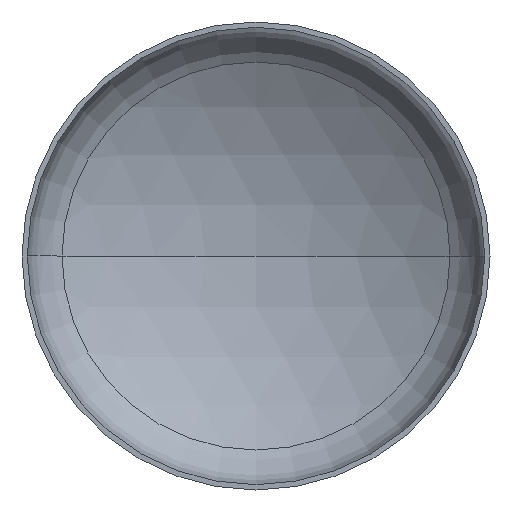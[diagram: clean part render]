
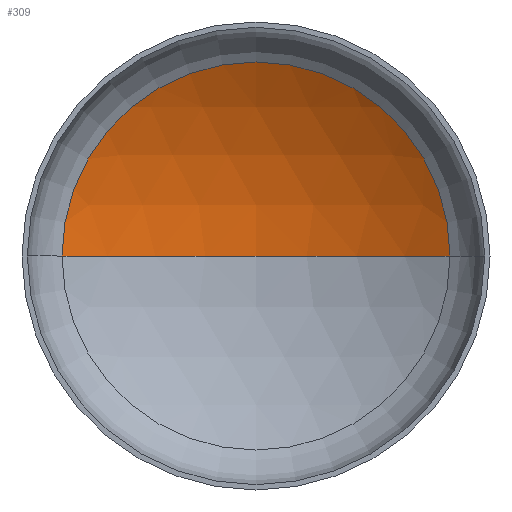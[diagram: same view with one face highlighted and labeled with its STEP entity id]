
A CAD part, front view. The second image highlights one B-rep face of the part: STEP entity #309.
In plain terms, the highlighted spherical face has radius 1120 mm.
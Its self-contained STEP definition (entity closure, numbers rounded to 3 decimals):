
#9 = CIRCLE ( 'NONE', #72, 1120. ) ;
#21 = VERTEX_POINT ( 'NONE', #197 ) ;
#32 = DIRECTION ( 'NONE',  ( -1., 0., 0. ) ) ;
#36 = AXIS2_PLACEMENT_3D ( 'NONE', #296, #159, #392 ) ;
#40 = EDGE_LOOP ( 'NONE', ( #218, #108, #89 ) ) ;
#57 = CIRCLE ( 'NONE', #78, 580.42 ) ;
#61 = AXIS2_PLACEMENT_3D ( 'NONE', #224, #223, #196 ) ;
#71 = VERTEX_POINT ( 'NONE', #331 ) ;
#72 = AXIS2_PLACEMENT_3D ( 'NONE', #408, #274, #32 ) ;
#78 = AXIS2_PLACEMENT_3D ( 'NONE', #343, #209, #298 ) ;
#82 = VERTEX_POINT ( 'NONE', #181 ) ;
#89 = ORIENTED_EDGE ( 'NONE', *, *, #142, .T. ) ;
#108 = ORIENTED_EDGE ( 'NONE', *, *, #147, .T. ) ;
#142 = EDGE_CURVE ( 'NONE', #21, #71, #57, .T. ) ;
#147 = EDGE_CURVE ( 'NONE', #82, #21, #9, .T. ) ;
#159 = DIRECTION ( 'NONE',  ( 0., 0., -1. ) ) ;
#164 = EDGE_CURVE ( 'NONE', #82, #71, #361, .T. ) ;
#181 = CARTESIAN_POINT ( 'NONE',  ( 0., 401.008, 0. ) ) ;
#196 = DIRECTION ( 'NONE',  ( 1., 0., 0. ) ) ;
#197 = CARTESIAN_POINT ( 'NONE',  ( 580.42, 238.877, 0. ) ) ;
#209 = DIRECTION ( 'NONE',  ( 0., -1., 0. ) ) ;
#218 = ORIENTED_EDGE ( 'NONE', *, *, #164, .F. ) ;
#220 = SPHERICAL_SURFACE ( 'NONE', #36, 1120. ) ;
#223 = DIRECTION ( 'NONE',  ( 0., 0., 1. ) ) ;
#224 = CARTESIAN_POINT ( 'NONE',  ( 0., -718.992, 0. ) ) ;
#274 = DIRECTION ( 'NONE',  ( 0., 0., -1. ) ) ;
#296 = CARTESIAN_POINT ( 'NONE',  ( 0., -718.992, 0. ) ) ;
#298 = DIRECTION ( 'NONE',  ( 1., 0., 0. ) ) ;
#309 = ADVANCED_FACE ( 'NONE', ( #339 ), #220, .F. ) ;
#331 = CARTESIAN_POINT ( 'NONE',  ( -580.42, 238.877, 0. ) ) ;
#339 = FACE_OUTER_BOUND ( 'NONE', #40, .T. ) ;
#343 = CARTESIAN_POINT ( 'NONE',  ( 0., 238.877, 0. ) ) ;
#361 = CIRCLE ( 'NONE', #61, 1120. ) ;
#392 = DIRECTION ( 'NONE',  ( -1., 0., 0. ) ) ;
#408 = CARTESIAN_POINT ( 'NONE',  ( 0., -718.992, 0. ) ) ;
